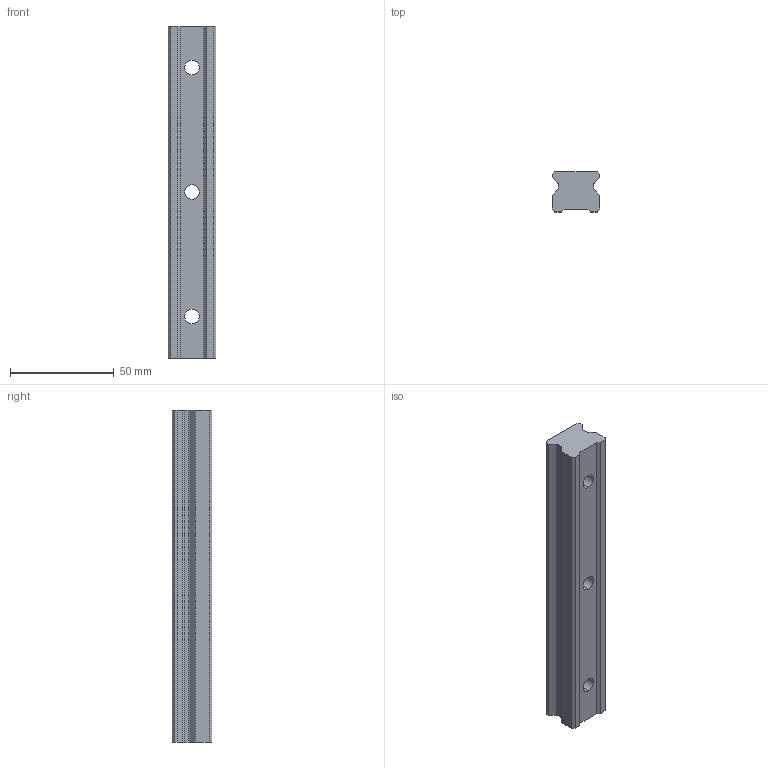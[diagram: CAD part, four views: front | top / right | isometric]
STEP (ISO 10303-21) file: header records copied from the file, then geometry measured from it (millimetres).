
FILE_DESCRIPTION (( 'STEP AP203' ), '1' );
FILE_NAME ('L1016.BL25-0160.step', '2019-06-12T12:03:57', ( '' ), ( '' ), 'SwSTEP 2.0', 'SolidWorks 2017', '' );
FILE_SCHEMA (( 'CONFIG_CONTROL_DESIGN' ));
Length unit declared in the file: millimetre
Products named in the file (1): L1016.BL25-0160
Bounding box: 23 x 19.2 x 160 mm (x, y, z)
Volume: 58583.9 mm3; surface area: 16009.7 mm2
Topology: 1 solids, 1 shells, 41 faces, 108 edges, 72 vertices
Faces by surface type: plane 25, cylinder 16
Entity records: 1363 total; most frequent: DIRECTION 224, CARTESIAN_POINT 222, ORIENTED_EDGE 216, EDGE_CURVE 108, VECTOR 76, LINE 76, AXIS2_PLACEMENT_3D 74, VERTEX_POINT 72
